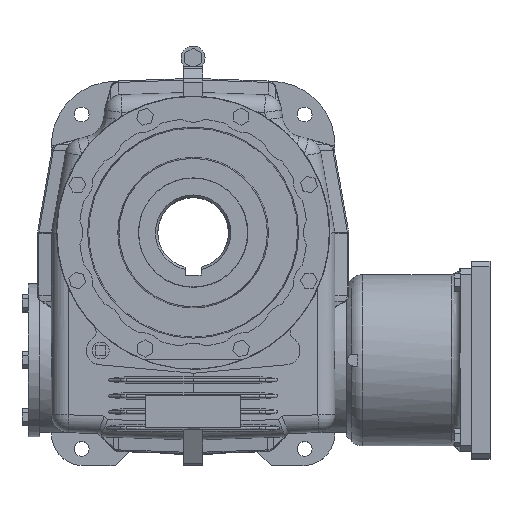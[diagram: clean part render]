
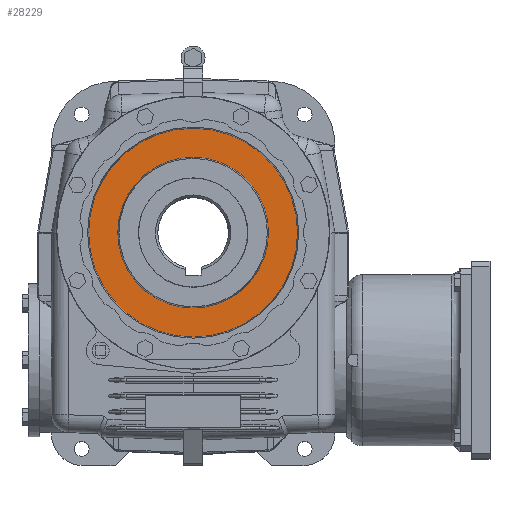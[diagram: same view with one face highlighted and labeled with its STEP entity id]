
A CAD part, top view. The second image highlights one B-rep face of the part: STEP entity #28229.
In plain terms, the highlighted planar face has unit normal (0, 0, 1) as drawn and (1, 0, 0) by its records, which use the part's own axes.
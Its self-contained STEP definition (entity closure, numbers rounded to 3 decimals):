
#12997=ORIENTED_EDGE('',*,*,#18091,.F.);
#12998=ORIENTED_EDGE('',*,*,#18090,.T.);
#18090=EDGE_CURVE('',#20944,#20944,#21985,.T.);
#18091=EDGE_CURVE('',#20945,#20945,#21986,.T.);
#20944=VERTEX_POINT('',#60359);
#20945=VERTEX_POINT('',#60362);
#21985=CIRCLE('',#32661,120.21);
#21986=CIRCLE('',#32663,166.662);
#23555=EDGE_LOOP('',(#12997));
#23556=EDGE_LOOP('',(#12998));
#25483=FACE_BOUND('',#23555,.T.);
#25484=FACE_BOUND('',#23556,.T.);
#26625=PLANE('',#32662);
#28229=ADVANCED_FACE('',(#25483,#25484),#26625,.F.);
#32661=AXIS2_PLACEMENT_3D('',#60358,#37855,#37856);
#32662=AXIS2_PLACEMENT_3D('',#60360,#37857,#37858);
#32663=AXIS2_PLACEMENT_3D('',#60361,#37859,#37860);
#37855=DIRECTION('',(-1.,0.,0.));
#37856=DIRECTION('',(0.,0.,1.));
#37857=DIRECTION('',(-1.,0.,0.));
#37858=DIRECTION('',(0.,0.,1.));
#37859=DIRECTION('',(-1.,0.,0.));
#37860=DIRECTION('',(0.,0.,1.));
#60358=CARTESIAN_POINT('',(18.796,0.,0.));
#60359=CARTESIAN_POINT('',(18.796,0.,120.21));
#60360=CARTESIAN_POINT('',(18.796,0.,166.662));
#60361=CARTESIAN_POINT('',(18.796,0.,0.));
#60362=CARTESIAN_POINT('',(18.796,0.,166.662));
